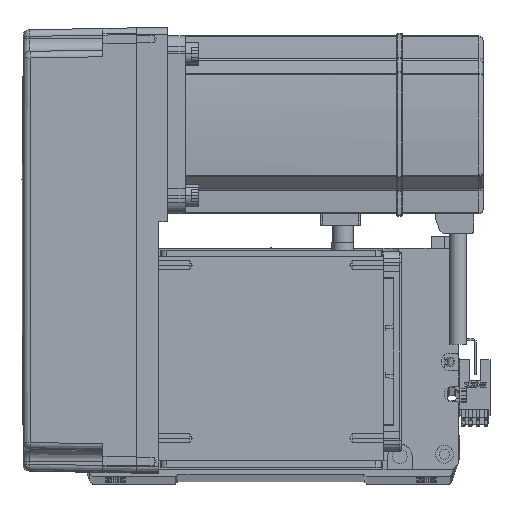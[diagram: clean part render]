
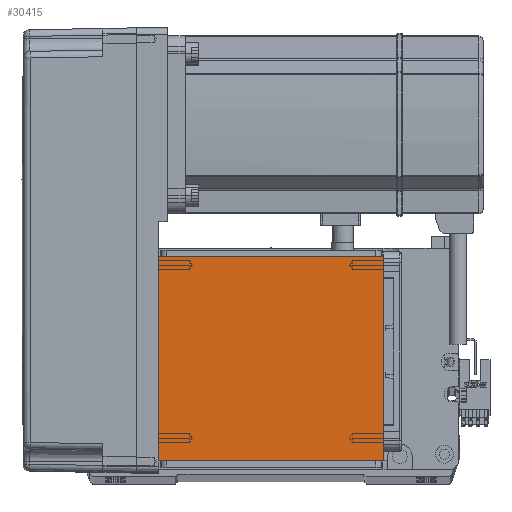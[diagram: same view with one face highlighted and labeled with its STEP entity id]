
A CAD part, top view. The second image highlights one B-rep face of the part: STEP entity #30415.
In plain terms, the highlighted planar face has unit normal (0, 0, 1).
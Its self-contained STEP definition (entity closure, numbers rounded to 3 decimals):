
#1363 = LINE ( 'NONE', #38859, #30558 ) ;
#5193 = DIRECTION ( 'NONE',  ( 1., 0., 0. ) ) ;
#7260 = VERTEX_POINT ( 'NONE', #21922 ) ;
#8618 = CARTESIAN_POINT ( 'NONE',  ( 0., 0., 115. ) ) ;
#9639 = ORIENTED_EDGE ( 'NONE', *, *, #60338, .T. ) ;
#11332 = LINE ( 'NONE', #55841, #21027 ) ;
#15059 = EDGE_CURVE ( 'NONE', #50649, #52966, #1363, .T. ) ;
#16061 = CARTESIAN_POINT ( 'NONE',  ( -70.004, 20., 115. ) ) ;
#16261 = DIRECTION ( 'NONE',  ( -1., 0., 0. ) ) ;
#18998 = CARTESIAN_POINT ( 'NONE',  ( -50.5, 111.5, 115. ) ) ;
#21027 = VECTOR ( 'NONE', #50391, 1000. ) ;
#21922 = CARTESIAN_POINT ( 'NONE',  ( 50.5, 20., 115. ) ) ;
#23305 = AXIS2_PLACEMENT_3D ( 'NONE', #8618, #27264, #56121 ) ;
#25261 = VERTEX_POINT ( 'NONE', #49377 ) ;
#26812 = FACE_OUTER_BOUND ( 'NONE', #30200, .T. ) ;
#27264 = DIRECTION ( 'NONE',  ( 0., 0., 1. ) ) ;
#30200 = EDGE_LOOP ( 'NONE', ( #41825, #52332, #43445, #9639 ) ) ;
#30415 = ADVANCED_FACE ( 'NONE', ( #26812 ), #61109, .T. ) ;
#30558 = VECTOR ( 'NONE', #5193, 1000. ) ;
#33337 = VECTOR ( 'NONE', #16261, 1000. ) ;
#36282 = EDGE_CURVE ( 'NONE', #7260, #25261, #44592, .T. ) ;
#36441 = CARTESIAN_POINT ( 'NONE',  ( 50.5, 111.5, 115. ) ) ;
#38859 = CARTESIAN_POINT ( 'NONE',  ( -70.004, 111.5, 115. ) ) ;
#39415 = DIRECTION ( 'NONE',  ( 0., -1., 0. ) ) ;
#41825 = ORIENTED_EDGE ( 'NONE', *, *, #15059, .F. ) ;
#42791 = EDGE_CURVE ( 'NONE', #50649, #25261, #49828, .T. ) ;
#43445 = ORIENTED_EDGE ( 'NONE', *, *, #36282, .F. ) ;
#44592 = LINE ( 'NONE', #16061, #33337 ) ;
#48350 = VECTOR ( 'NONE', #39415, 1000. ) ;
#49377 = CARTESIAN_POINT ( 'NONE',  ( -50.5, 20., 115. ) ) ;
#49828 = LINE ( 'NONE', #54032, #48350 ) ;
#50391 = DIRECTION ( 'NONE',  ( 0., 1., 0. ) ) ;
#50649 = VERTEX_POINT ( 'NONE', #18998 ) ;
#52332 = ORIENTED_EDGE ( 'NONE', *, *, #42791, .T. ) ;
#52966 = VERTEX_POINT ( 'NONE', #36441 ) ;
#54032 = CARTESIAN_POINT ( 'NONE',  ( -50.5, 122., 115. ) ) ;
#55841 = CARTESIAN_POINT ( 'NONE',  ( 50.5, 122., 115. ) ) ;
#56121 = DIRECTION ( 'NONE',  ( 1., 0., 0. ) ) ;
#60338 = EDGE_CURVE ( 'NONE', #7260, #52966, #11332, .T. ) ;
#61109 = PLANE ( 'NONE',  #23305 ) ;
